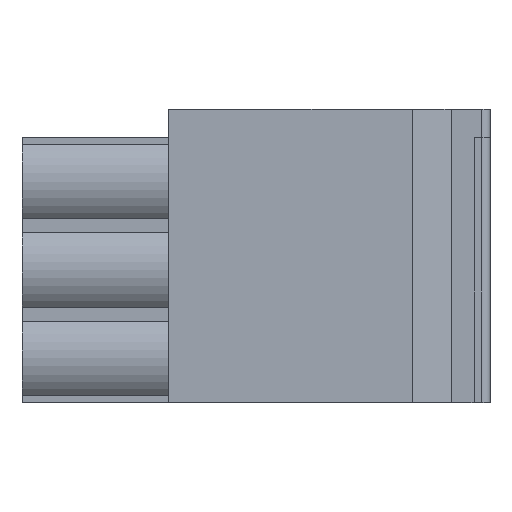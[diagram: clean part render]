
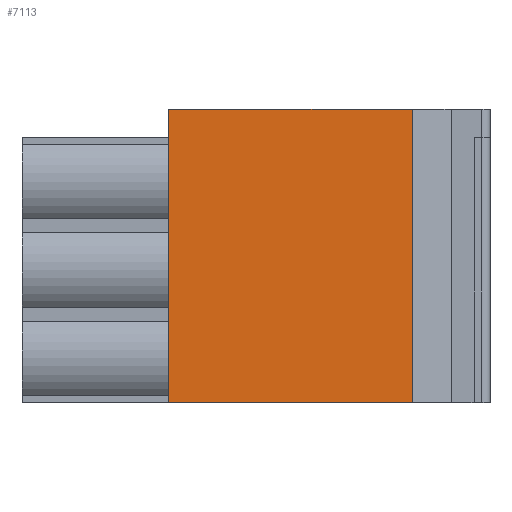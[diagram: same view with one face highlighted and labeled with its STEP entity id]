
A CAD part, top view. The second image highlights one B-rep face of the part: STEP entity #7113.
In plain terms, the highlighted planar face has unit normal (0, 0, 1).
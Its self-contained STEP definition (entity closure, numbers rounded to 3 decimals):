
#429=DIRECTION('',(0.,-1.,0.));
#430=VECTOR('',#429,16.6);
#431=CARTESIAN_POINT('',(5.6,2.,0.));
#432=LINE('',#431,#430);
#1490=DIRECTION('',(0.,-1.,0.));
#1491=VECTOR('',#1490,16.6);
#1492=CARTESIAN_POINT('',(19.4,2.,0.));
#1493=LINE('',#1492,#1491);
#1494=DIRECTION('',(-1.,0.,0.));
#1495=VECTOR('',#1494,13.8);
#1496=CARTESIAN_POINT('',(19.4,-14.6,0.));
#1497=LINE('',#1496,#1495);
#1520=DIRECTION('',(-1.,0.,0.));
#1521=VECTOR('',#1520,13.8);
#1522=CARTESIAN_POINT('',(19.4,2.,0.));
#1523=LINE('',#1522,#1521);
#4034=CARTESIAN_POINT('',(5.6,2.,0.));
#4035=CARTESIAN_POINT('',(5.6,-14.6,0.));
#4036=VERTEX_POINT('',#4034);
#4037=VERTEX_POINT('',#4035);
#4114=CARTESIAN_POINT('',(19.4,2.,0.));
#4115=CARTESIAN_POINT('',(19.4,-14.6,0.));
#4116=VERTEX_POINT('',#4114);
#4117=VERTEX_POINT('',#4115);
#7101=CARTESIAN_POINT('',(5.6,0.4,0.));
#7102=DIRECTION('',(0.,0.,1.));
#7103=DIRECTION('',(1.,0.,0.));
#7104=AXIS2_PLACEMENT_3D('',#7101,#7102,#7103);
#7105=PLANE('',#7104);
#7106=ORIENTED_EDGE('',*,*,#7094,.T.);
#7107=ORIENTED_EDGE('',*,*,#5307,.T.);
#7108=ORIENTED_EDGE('',*,*,#5561,.F.);
#7110=ORIENTED_EDGE('',*,*,#7109,.F.);
#7111=EDGE_LOOP('',(#7106,#7107,#7108,#7110));
#7112=FACE_OUTER_BOUND('',#7111,.F.);
#7113=ADVANCED_FACE('',(#7112),#7105,.T.);
#5307=EDGE_CURVE('',#4117,#4037,#1497,.T.);
#5561=EDGE_CURVE('',#4036,#4037,#432,.T.);
#7094=EDGE_CURVE('',#4116,#4117,#1493,.T.);
#7109=EDGE_CURVE('',#4116,#4036,#1523,.T.);
